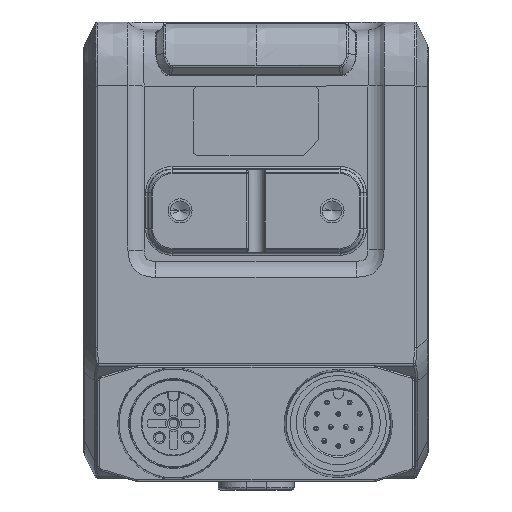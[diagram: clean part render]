
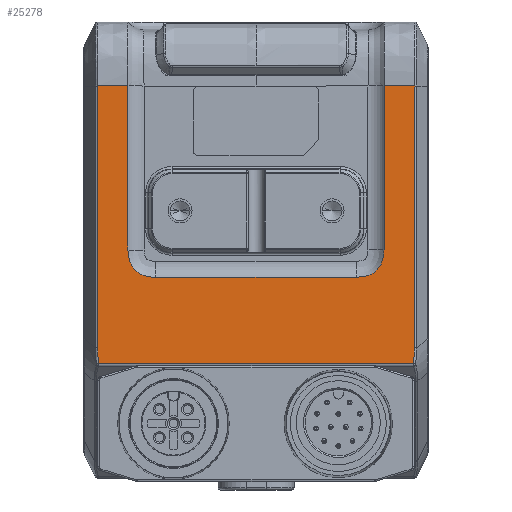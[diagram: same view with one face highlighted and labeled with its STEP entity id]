
A CAD part, front view. The second image highlights one B-rep face of the part: STEP entity #25278.
In plain terms, the highlighted planar face has unit normal (0, -1, 0).
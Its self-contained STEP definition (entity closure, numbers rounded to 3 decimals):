
#1915=CARTESIAN_POINT('',(-102.418,-21.4,
161.638));
#1936=CARTESIAN_POINT('',(-98.603,-21.4,
161.638));
#1938=DIRECTION('',(-1.,0.,0.));
#1939=VECTOR('',#1938,3.815);
#1940=CARTESIAN_POINT('',(-98.603,-21.4,
161.638));
#1941=LINE('',#1940,#1939);
#2114=CARTESIAN_POINT('',(-102.304,-21.4,126.977));
#2115=CARTESIAN_POINT('',(-102.31,-21.4,127.018));
#2116=CARTESIAN_POINT('',(-102.325,-21.4,127.13));
#2117=CARTESIAN_POINT('',(-102.346,-21.4,127.308));
#2118=CARTESIAN_POINT('',(-102.366,-21.4,127.51));
#2119=CARTESIAN_POINT('',(-102.383,-21.4,127.707));
#2120=CARTESIAN_POINT('',(-102.396,-21.4,127.903));
#2121=CARTESIAN_POINT('',(-102.406,-21.4,128.101));
#2122=CARTESIAN_POINT('',(-102.412,-21.4,128.298));
#2123=CARTESIAN_POINT('',(-102.416,-21.4,128.495));
#2124=CARTESIAN_POINT('',(-102.418,-21.4,128.695));
#2125=CARTESIAN_POINT('',(-102.418,-21.4,128.83));
#2126=CARTESIAN_POINT('',(-102.418,-21.4,128.899));
#2128=CARTESIAN_POINT('',(-98.603,-21.4,
141.138));
#2129=CARTESIAN_POINT('',(-98.603,-21.4,
141.136));
#2130=CARTESIAN_POINT('',(-98.598,-21.4,
140.933));
#2131=CARTESIAN_POINT('',(-98.576,-21.4,
140.633));
#2132=CARTESIAN_POINT('',(-98.509,-21.4,
140.225));
#2133=CARTESIAN_POINT('',(-98.441,-21.4,
139.932));
#2134=CARTESIAN_POINT('',(-98.35,-21.4,
139.64));
#2135=CARTESIAN_POINT('',(-98.229,-21.4,
139.352));
#2136=CARTESIAN_POINT('',(-98.073,-21.4,
139.066));
#2137=CARTESIAN_POINT('',(-97.884,-21.4,
138.799));
#2138=CARTESIAN_POINT('',(-97.655,-21.4,
138.554));
#2139=CARTESIAN_POINT('',(-97.399,-21.4,
138.344));
#2140=CARTESIAN_POINT('',(-97.131,-21.4,
138.175));
#2141=CARTESIAN_POINT('',(-96.85,-21.4,
138.039));
#2142=CARTESIAN_POINT('',(-96.567,-21.4,
137.936));
#2143=CARTESIAN_POINT('',(-96.179,-21.4,
137.83));
#2144=CARTESIAN_POINT('',(-95.775,-21.4,
137.768));
#2145=CARTESIAN_POINT('',(-95.389,-21.4,
137.742));
#2146=CARTESIAN_POINT('',(-95.191,-21.4,
137.738));
#2147=CARTESIAN_POINT('',(-95.105,-21.4,
137.738));
#2149=CARTESIAN_POINT('',(-70.102,-21.4,
137.738));
#2150=CARTESIAN_POINT('',(-70.013,-21.4,
137.738));
#2151=CARTESIAN_POINT('',(-69.811,-21.4,
137.742));
#2152=CARTESIAN_POINT('',(-69.423,-21.4,
137.769));
#2153=CARTESIAN_POINT('',(-68.928,-21.4,
137.846));
#2154=CARTESIAN_POINT('',(-68.442,-21.4,
137.997));
#2155=CARTESIAN_POINT('',(-68.059,-21.4,
138.184));
#2156=CARTESIAN_POINT('',(-67.788,-21.4,
138.358));
#2157=CARTESIAN_POINT('',(-67.535,-21.4,
138.571));
#2158=CARTESIAN_POINT('',(-67.314,-21.4,
138.812));
#2159=CARTESIAN_POINT('',(-67.131,-21.4,
139.071));
#2160=CARTESIAN_POINT('',(-66.931,-21.4,
139.437));
#2161=CARTESIAN_POINT('',(-66.76,-21.4,
139.911));
#2162=CARTESIAN_POINT('',(-66.646,-21.4,
140.485));
#2163=CARTESIAN_POINT('',(-66.612,-21.4,
140.891));
#2164=CARTESIAN_POINT('',(-66.604,-21.4,
141.111));
#2165=CARTESIAN_POINT('',(-66.603,-21.4,
141.138));
#2167=DIRECTION('',(1.,0.,0.));
#2168=VECTOR('',#2167,3.815);
#2169=CARTESIAN_POINT('',(-66.603,-21.4,
161.638));
#2170=LINE('',#2169,#2168);
#2171=CARTESIAN_POINT('',(-62.789,-21.4,128.899));
#2172=CARTESIAN_POINT('',(-62.789,-21.4,128.819));
#2173=CARTESIAN_POINT('',(-62.789,-21.4,128.666));
#2174=CARTESIAN_POINT('',(-62.791,-21.4,128.446));
#2175=CARTESIAN_POINT('',(-62.796,-21.4,
128.239));
#2176=CARTESIAN_POINT('',(-62.804,-21.4,
128.04));
#2177=CARTESIAN_POINT('',(-62.814,-21.4,
127.843));
#2178=CARTESIAN_POINT('',(-62.829,-21.4,
127.646));
#2179=CARTESIAN_POINT('',(-62.846,-21.4,
127.448));
#2180=CARTESIAN_POINT('',(-62.867,-21.4,
127.251));
#2181=CARTESIAN_POINT('',(-62.887,-21.4,
127.094));
#2182=CARTESIAN_POINT('',(-62.899,-21.4,
127.003));
#2183=CARTESIAN_POINT('',(-62.902,-21.4,
126.977));
#2185=DIRECTION('',(1.,0.,0.));
#2186=VECTOR('',#2185,39.402);
#2187=CARTESIAN_POINT('',(-102.304,-21.4,126.977));
#2188=LINE('',#2187,#2186);
#2220=DIRECTION('',(0.,0.,1.));
#2221=VECTOR('',#2220,32.739);
#2222=CARTESIAN_POINT('',(-62.789,-21.4,128.899));
#2223=LINE('',#2222,#2221);
#3447=DIRECTION('',(0.,0.,-1.));
#3448=VECTOR('',#3447,32.739);
#3449=CARTESIAN_POINT('',(-102.418,-21.4,
161.638));
#3450=LINE('',#3449,#3448);
#7427=DIRECTION('',(0.,0.,1.));
#7428=VECTOR('',#7427,20.5);
#7429=CARTESIAN_POINT('',(-98.603,-21.4,
141.138));
#7430=LINE('',#7429,#7428);
#7441=CARTESIAN_POINT('',(-98.603,-21.4,
141.138));
#9619=DIRECTION('',(0.,0.,-1.));
#9620=VECTOR('',#9619,20.5);
#9621=CARTESIAN_POINT('',(-66.603,-21.4,
161.638));
#9622=LINE('',#9621,#9620);
#9637=DIRECTION('',(-1.,0.,0.));
#9638=VECTOR('',#9637,25.003);
#9639=CARTESIAN_POINT('',(-70.102,-21.4,
137.738));
#9640=LINE('',#9639,#9638);
#19615=VERTEX_POINT('',#1915);
#19618=VERTEX_POINT('',#1936);
#19619=VERTEX_POINT('',#7441);
#19621=VERTEX_POINT('',#2147);
#19623=CARTESIAN_POINT('',(-102.304,-21.4,126.977));
#19624=CARTESIAN_POINT('',(-62.902,-21.4,
126.977));
#19625=VERTEX_POINT('',#19623);
#19626=VERTEX_POINT('',#19624);
#19627=VERTEX_POINT('',#2126);
#19628=CARTESIAN_POINT('',(-70.102,-21.4,
137.738));
#19629=VERTEX_POINT('',#19628);
#19630=VERTEX_POINT('',#2165);
#19631=CARTESIAN_POINT('',(-66.603,-21.4,
161.638));
#19632=VERTEX_POINT('',#19631);
#19633=CARTESIAN_POINT('',(-62.789,-21.4,161.638));
#19634=VERTEX_POINT('',#19633);
#19635=CARTESIAN_POINT('',(-62.789,-21.4,128.899));
#19636=VERTEX_POINT('',#19635);
#25249=CARTESIAN_POINT('',(-81.103,-21.4,161.638));
#25250=DIRECTION('',(0.,-1.,0.));
#25251=DIRECTION('',(1.,0.,0.));
#25252=AXIS2_PLACEMENT_3D('',#25249,#25250,#25251);
#25253=PLANE('',#25252);
#25255=ORIENTED_EDGE('',*,*,#25254,.F.);
#25257=ORIENTED_EDGE('',*,*,#25256,.T.);
#25259=ORIENTED_EDGE('',*,*,#25258,.F.);
#25260=ORIENTED_EDGE('',*,*,#24821,.F.);
#25262=ORIENTED_EDGE('',*,*,#25261,.F.);
#25264=ORIENTED_EDGE('',*,*,#25263,.T.);
#25266=ORIENTED_EDGE('',*,*,#25265,.F.);
#25268=ORIENTED_EDGE('',*,*,#25267,.T.);
#25270=ORIENTED_EDGE('',*,*,#25269,.F.);
#25271=ORIENTED_EDGE('',*,*,#25241,.T.);
#25273=ORIENTED_EDGE('',*,*,#25272,.F.);
#25275=ORIENTED_EDGE('',*,*,#25274,.T.);
#25276=EDGE_LOOP('',(#25255,#25257,#25259,#25260,#25262,#25264,#25266,#25268,
#25270,#25271,#25273,#25275));
#25277=FACE_OUTER_BOUND('',#25276,.F.);
#25278=ADVANCED_FACE('',(#25277),#25253,.T.);
#2127=B_SPLINE_CURVE_WITH_KNOTS('',3,(#2114,#2115,#2116,#2117,#2118,#2119,#2120,
#2121,#2122,#2123,#2124,#2125,#2126),.UNSPECIFIED.,.F.,.F.,(4,1,1,1,1,1,1,1,1,1,
4),(0.,0.065,0.176,0.279,
0.381,0.484,0.587,0.689,
0.791,0.893,1.),.UNSPECIFIED.);
#2148=B_SPLINE_CURVE_WITH_KNOTS('',3,(#2128,#2129,#2130,#2131,#2132,#2133,#2134,
#2135,#2136,#2137,#2138,#2139,#2140,#2141,#2142,#2143,#2144,#2145,#2146,#2147),
.UNSPECIFIED.,.F.,.F.,(4,1,1,1,1,1,1,1,1,1,1,1,1,1,1,1,1,4),(0.,
0.002,0.129,0.187,0.246,
0.3,0.355,0.406,0.457,
0.506,0.555,0.605,0.655,
0.708,0.761,0.875,0.946,1.),
.UNSPECIFIED.);
#2166=B_SPLINE_CURVE_WITH_KNOTS('',3,(#2149,#2150,#2151,#2152,#2153,#2154,#2155,
#2156,#2157,#2158,#2159,#2160,#2161,#2162,#2163,#2164,#2165),.UNSPECIFIED.,.F.,
.F.,(4,1,1,1,1,1,1,1,1,1,1,1,1,1,4),(0.,0.056,0.127,
0.24,0.347,0.398,0.449,
0.497,0.546,0.595,0.644,
0.748,0.86,0.983,1.),.UNSPECIFIED.);
#2184=B_SPLINE_CURVE_WITH_KNOTS('',3,(#2171,#2172,#2173,#2174,#2175,#2176,#2177,
#2178,#2179,#2180,#2181,#2182,#2183),.UNSPECIFIED.,.F.,.F.,(4,1,1,1,1,1,1,1,1,1,
4),(0.,0.124,0.237,0.343,
0.445,0.547,0.65,0.754,
0.856,0.959,1.),.UNSPECIFIED.);
#24821=EDGE_CURVE('',#19618,#19615,#1941,.T.);
#25241=EDGE_CURVE('',#19632,#19634,#2170,.T.);
#25254=EDGE_CURVE('',#19625,#19626,#2188,.T.);
#25256=EDGE_CURVE('',#19625,#19627,#2127,.T.);
#25258=EDGE_CURVE('',#19615,#19627,#3450,.T.);
#25261=EDGE_CURVE('',#19619,#19618,#7430,.T.);
#25263=EDGE_CURVE('',#19619,#19621,#2148,.T.);
#25265=EDGE_CURVE('',#19629,#19621,#9640,.T.);
#25267=EDGE_CURVE('',#19629,#19630,#2166,.T.);
#25269=EDGE_CURVE('',#19632,#19630,#9622,.T.);
#25272=EDGE_CURVE('',#19636,#19634,#2223,.T.);
#25274=EDGE_CURVE('',#19636,#19626,#2184,.T.);
